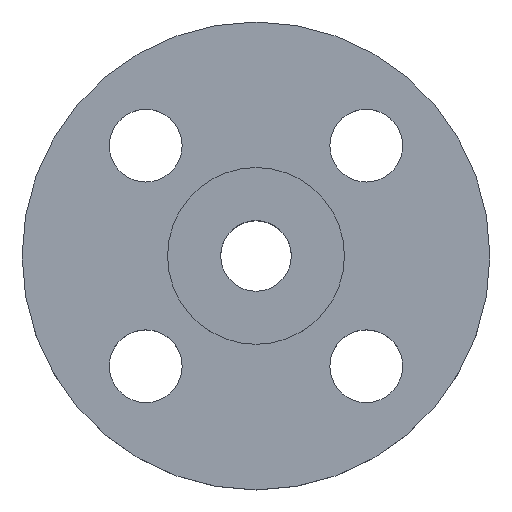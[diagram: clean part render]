
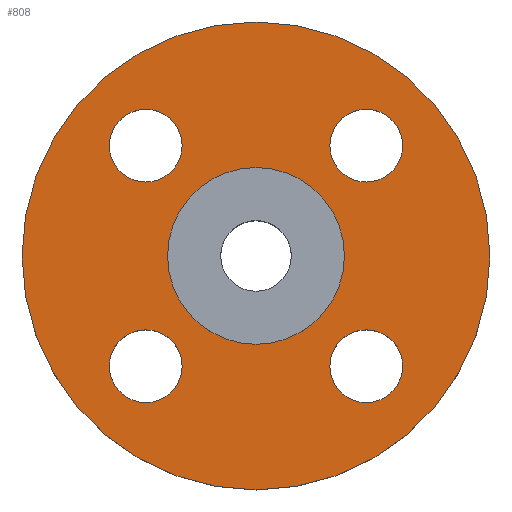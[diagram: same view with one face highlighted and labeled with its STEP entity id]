
A CAD part, top view. The second image highlights one B-rep face of the part: STEP entity #808.
In plain terms, the highlighted planar face has unit normal (0, 0, 1).
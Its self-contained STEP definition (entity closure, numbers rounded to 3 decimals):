
#16 = CIRCLE ( 'NONE', #280, 7. ) ;
#20 = EDGE_CURVE ( 'NONE', #667, #463, #385, .T. ) ;
#32 = CIRCLE ( 'NONE', #735, 7. ) ;
#48 = EDGE_CURVE ( 'NONE', #450, #677, #648, .T. ) ;
#49 = AXIS2_PLACEMENT_3D ( 'NONE', #775, #776, #777 ) ;
#55 = AXIS2_PLACEMENT_3D ( 'NONE', #754, #755, #756 ) ;
#68 = DIRECTION ( 'NONE',  ( 1., 0., 0. ) ) ;
#69 = DIRECTION ( 'NONE',  ( 0., 0., 1. ) ) ;
#70 = CARTESIAN_POINT ( 'NONE',  ( 17., 0., -4.5 ) ) ;
#71 = CIRCLE ( 'NONE', #388, 7. ) ;
#72 = PLANE ( 'NONE',  #465 ) ;
#73 = FACE_OUTER_BOUND ( 'NONE', #421, .T. ) ;
#74 = FACE_BOUND ( 'NONE', #657, .T. ) ;
#75 = FACE_BOUND ( 'NONE', #689, .T. ) ;
#76 = FACE_BOUND ( 'NONE', #687, .T. ) ;
#77 = CIRCLE ( 'NONE', #49, 17. ) ;
#78 = FACE_BOUND ( 'NONE', #686, .T. ) ;
#90 = AXIS2_PLACEMENT_3D ( 'NONE', #790, #791, #792 ) ;
#92 = FACE_BOUND ( 'NONE', #660, .T. ) ;
#96 = AXIS2_PLACEMENT_3D ( 'NONE', #696, #697, #698 ) ;
#106 = CARTESIAN_POINT ( 'NONE',  ( 28.213, -21.213, -4.5 ) ) ;
#109 = CARTESIAN_POINT ( 'NONE',  ( -14.213, -21.213, -4.5 ) ) ;
#110 = CARTESIAN_POINT ( 'NONE',  ( -45., 0., -4.5 ) ) ;
#113 = CARTESIAN_POINT ( 'NONE',  ( 28.213, 21.213, -4.5 ) ) ;
#119 = CARTESIAN_POINT ( 'NONE',  ( -17., 0., -4.5 ) ) ;
#123 = CARTESIAN_POINT ( 'NONE',  ( -28.213, 21.213, -4.5 ) ) ;
#124 = DIRECTION ( 'NONE',  ( 1., 0., 0. ) ) ;
#125 = DIRECTION ( 'NONE',  ( 0., 0., -1. ) ) ;
#126 = CARTESIAN_POINT ( 'NONE',  ( 21.213, 21.213, -4.5 ) ) ;
#128 = CIRCLE ( 'NONE', #90, 7. ) ;
#138 = EDGE_CURVE ( 'NONE', #682, #642, #71, .T. ) ;
#142 = CARTESIAN_POINT ( 'NONE',  ( 14.213, -21.213, -4.5 ) ) ;
#144 = EDGE_CURVE ( 'NONE', #468, #679, #418, .T. ) ;
#145 = AXIS2_PLACEMENT_3D ( 'NONE', #798, #799, #800 ) ;
#146 = CIRCLE ( 'NONE', #145, 45. ) ;
#165 = CARTESIAN_POINT ( 'NONE',  ( -14.213, 21.213, -4.5 ) ) ;
#173 = EDGE_CURVE ( 'NONE', #673, #459, #313, .T. ) ;
#206 = EDGE_CURVE ( 'NONE', #463, #667, #77, .T. ) ;
#214 = DIRECTION ( 'NONE',  ( 1., 0., 0. ) ) ;
#216 = AXIS2_PLACEMENT_3D ( 'NONE', #729, #730, #731 ) ;
#217 = CARTESIAN_POINT ( 'NONE',  ( 14.213, 21.213, -4.5 ) ) ;
#232 = CARTESIAN_POINT ( 'NONE',  ( 17., 0., -4.5 ) ) ;
#236 = DIRECTION ( 'NONE',  ( 1., 0., 0. ) ) ;
#243 = EDGE_CURVE ( 'NONE', #611, #664, #128, .T. ) ;
#255 = EDGE_CURVE ( 'NONE', #677, #450, #146, .T. ) ;
#265 = CARTESIAN_POINT ( 'NONE',  ( -28.213, -21.213, -4.5 ) ) ;
#273 = DIRECTION ( 'NONE',  ( 0., 0., -1. ) ) ;
#274 = CARTESIAN_POINT ( 'NONE',  ( -21.213, 21.213, -4.5 ) ) ;
#280 = AXIS2_PLACEMENT_3D ( 'NONE', #126, #125, #124 ) ;
#283 = CARTESIAN_POINT ( 'NONE',  ( 21.213, -21.213, -4.5 ) ) ;
#311 = AXIS2_PLACEMENT_3D ( 'NONE', #348, #350, #353 ) ;
#312 = CIRCLE ( 'NONE', #311, 7. ) ;
#313 = CIRCLE ( 'NONE', #55, 7. ) ;
#348 = CARTESIAN_POINT ( 'NONE',  ( -21.213, -21.213, -4.5 ) ) ;
#350 = DIRECTION ( 'NONE',  ( 0., 0., -1. ) ) ;
#352 = AXIS2_PLACEMENT_3D ( 'NONE', #702, #703, #704 ) ;
#353 = DIRECTION ( 'NONE',  ( 1., 0., 0. ) ) ;
#357 = AXIS2_PLACEMENT_3D ( 'NONE', #283, #445, #214 ) ;
#379 = EDGE_CURVE ( 'NONE', #679, #468, #312, .T. ) ;
#385 = CIRCLE ( 'NONE', #96, 17. ) ;
#388 = AXIS2_PLACEMENT_3D ( 'NONE', #725, #726, #728 ) ;
#408 = CARTESIAN_POINT ( 'NONE',  ( 45., 0., -4.5 ) ) ;
#418 = CIRCLE ( 'NONE', #216, 7. ) ;
#421 = EDGE_LOOP ( 'NONE', ( #609, #613 ) ) ;
#445 = DIRECTION ( 'NONE',  ( 0., 0., -1. ) ) ;
#450 = VERTEX_POINT ( 'NONE', #408 ) ;
#459 = VERTEX_POINT ( 'NONE', #217 ) ;
#463 = VERTEX_POINT ( 'NONE', #232 ) ;
#465 = AXIS2_PLACEMENT_3D ( 'NONE', #70, #69, #68 ) ;
#467 = EDGE_CURVE ( 'NONE', #664, #611, #32, .T. ) ;
#468 = VERTEX_POINT ( 'NONE', #265 ) ;
#526 = EDGE_CURVE ( 'NONE', #642, #682, #793, .T. ) ;
#599 = ORIENTED_EDGE ( 'NONE', *, *, #138, .T. ) ;
#600 = ORIENTED_EDGE ( 'NONE', *, *, #526, .T. ) ;
#601 = ORIENTED_EDGE ( 'NONE', *, *, #379, .T. ) ;
#602 = ORIENTED_EDGE ( 'NONE', *, *, #144, .T. ) ;
#603 = ORIENTED_EDGE ( 'NONE', *, *, #243, .T. ) ;
#604 = ORIENTED_EDGE ( 'NONE', *, *, #467, .T. ) ;
#605 = ORIENTED_EDGE ( 'NONE', *, *, #173, .T. ) ;
#606 = ORIENTED_EDGE ( 'NONE', *, *, #662, .T. ) ;
#607 = ORIENTED_EDGE ( 'NONE', *, *, #20, .T. ) ;
#608 = ORIENTED_EDGE ( 'NONE', *, *, #206, .T. ) ;
#609 = ORIENTED_EDGE ( 'NONE', *, *, #48, .F. ) ;
#611 = VERTEX_POINT ( 'NONE', #165 ) ;
#613 = ORIENTED_EDGE ( 'NONE', *, *, #255, .F. ) ;
#642 = VERTEX_POINT ( 'NONE', #142 ) ;
#648 = CIRCLE ( 'NONE', #352, 45. ) ;
#657 = EDGE_LOOP ( 'NONE', ( #605, #606 ) ) ;
#660 = EDGE_LOOP ( 'NONE', ( #607, #608 ) ) ;
#662 = EDGE_CURVE ( 'NONE', #459, #673, #16, .T. ) ;
#664 = VERTEX_POINT ( 'NONE', #123 ) ;
#667 = VERTEX_POINT ( 'NONE', #119 ) ;
#673 = VERTEX_POINT ( 'NONE', #113 ) ;
#677 = VERTEX_POINT ( 'NONE', #110 ) ;
#679 = VERTEX_POINT ( 'NONE', #109 ) ;
#682 = VERTEX_POINT ( 'NONE', #106 ) ;
#686 = EDGE_LOOP ( 'NONE', ( #599, #600 ) ) ;
#687 = EDGE_LOOP ( 'NONE', ( #601, #602 ) ) ;
#689 = EDGE_LOOP ( 'NONE', ( #603, #604 ) ) ;
#696 = CARTESIAN_POINT ( 'NONE',  ( 0., 0., -4.5 ) ) ;
#697 = DIRECTION ( 'NONE',  ( 0., 0., -1. ) ) ;
#698 = DIRECTION ( 'NONE',  ( -1., 0., 0. ) ) ;
#702 = CARTESIAN_POINT ( 'NONE',  ( 0., 0., -4.5 ) ) ;
#703 = DIRECTION ( 'NONE',  ( 0., 0., -1. ) ) ;
#704 = DIRECTION ( 'NONE',  ( -1., 0., 0. ) ) ;
#725 = CARTESIAN_POINT ( 'NONE',  ( 21.213, -21.213, -4.5 ) ) ;
#726 = DIRECTION ( 'NONE',  ( 0., 0., -1. ) ) ;
#728 = DIRECTION ( 'NONE',  ( 1., 0., 0. ) ) ;
#729 = CARTESIAN_POINT ( 'NONE',  ( -21.213, -21.213, -4.5 ) ) ;
#730 = DIRECTION ( 'NONE',  ( 0., 0., -1. ) ) ;
#731 = DIRECTION ( 'NONE',  ( 1., 0., 0. ) ) ;
#735 = AXIS2_PLACEMENT_3D ( 'NONE', #274, #273, #236 ) ;
#754 = CARTESIAN_POINT ( 'NONE',  ( 21.213, 21.213, -4.5 ) ) ;
#755 = DIRECTION ( 'NONE',  ( 0., 0., -1. ) ) ;
#756 = DIRECTION ( 'NONE',  ( 1., 0., 0. ) ) ;
#775 = CARTESIAN_POINT ( 'NONE',  ( 0., 0., -4.5 ) ) ;
#776 = DIRECTION ( 'NONE',  ( 0., 0., -1. ) ) ;
#777 = DIRECTION ( 'NONE',  ( -1., 0., 0. ) ) ;
#790 = CARTESIAN_POINT ( 'NONE',  ( -21.213, 21.213, -4.5 ) ) ;
#791 = DIRECTION ( 'NONE',  ( 0., 0., -1. ) ) ;
#792 = DIRECTION ( 'NONE',  ( 1., 0., 0. ) ) ;
#793 = CIRCLE ( 'NONE', #357, 7. ) ;
#798 = CARTESIAN_POINT ( 'NONE',  ( 0., 0., -4.5 ) ) ;
#799 = DIRECTION ( 'NONE',  ( 0., 0., -1. ) ) ;
#800 = DIRECTION ( 'NONE',  ( -1., 0., 0. ) ) ;
#808 = ADVANCED_FACE ( 'NONE', ( #78, #76, #75, #74, #92, #73 ), #72, .T. ) ;
